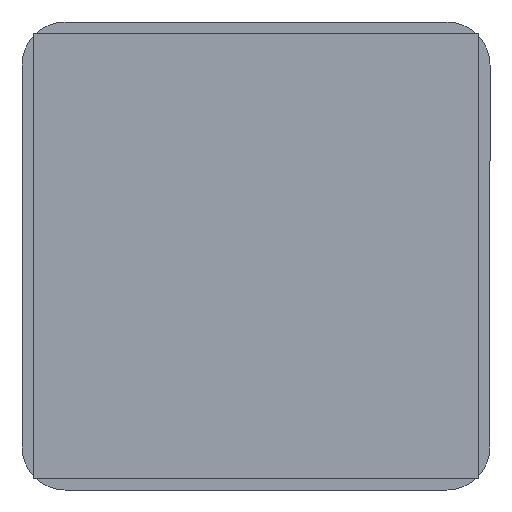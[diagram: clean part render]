
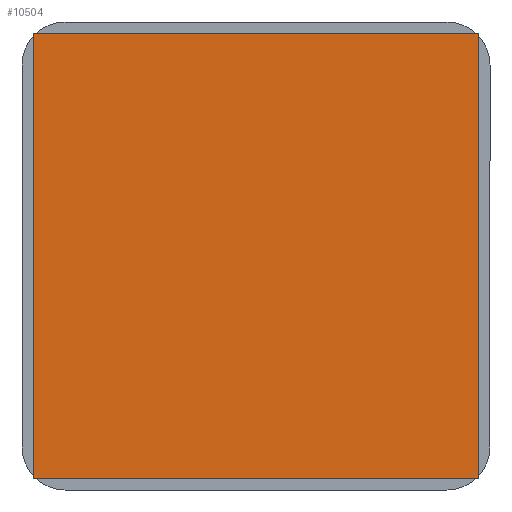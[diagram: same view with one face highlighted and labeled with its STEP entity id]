
A CAD part, front view. The second image highlights one B-rep face of the part: STEP entity #10504.
In plain terms, the highlighted planar face has unit normal (0, -1, 0).
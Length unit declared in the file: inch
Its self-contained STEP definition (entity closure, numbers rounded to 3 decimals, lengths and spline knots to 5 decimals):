
#136 = VECTOR ( 'NONE', #8358, 39.37008 ) ;
#461 = LINE ( 'NONE', #6376, #8105 ) ;
#781 = CARTESIAN_POINT ( 'NONE',  ( 0.61024, -0.005, -0.61024 ) ) ;
#1507 = CARTESIAN_POINT ( 'NONE',  ( -0.61024, -0.005, 0.61024 ) ) ;
#1870 = VERTEX_POINT ( 'NONE', #9272 ) ;
#2605 = CARTESIAN_POINT ( 'NONE',  ( -0.61024, -0.005, 0.61024 ) ) ;
#3732 = CARTESIAN_POINT ( 'NONE',  ( -0.61024, -0.005, -0.61024 ) ) ;
#3785 = ORIENTED_EDGE ( 'NONE', *, *, #7304, .F. ) ;
#3824 = CARTESIAN_POINT ( 'NONE',  ( 0.61024, -0.005, -0.61024 ) ) ;
#4040 = EDGE_CURVE ( 'NONE', #8818, #1870, #9914, .T. ) ;
#4565 = LINE ( 'NONE', #3732, #5872 ) ;
#4615 = DIRECTION ( 'NONE',  ( -1., 0., 0. ) ) ;
#5089 = DIRECTION ( 'NONE',  ( 0., 0., 1. ) ) ;
#5839 = PLANE ( 'NONE',  #9937 ) ;
#5872 = VECTOR ( 'NONE', #4615, 39.37008 ) ;
#6358 = EDGE_CURVE ( 'NONE', #1870, #9873, #7346, .T. ) ;
#6376 = CARTESIAN_POINT ( 'NONE',  ( -0.61024, -0.005, -0.61024 ) ) ;
#6384 = VERTEX_POINT ( 'NONE', #8258 ) ;
#7102 = EDGE_LOOP ( 'NONE', ( #3785, #10182, #8848, #10894 ) ) ;
#7280 = CARTESIAN_POINT ( 'NONE',  ( -0.61024, -0.005, 0.61024 ) ) ;
#7304 = EDGE_CURVE ( 'NONE', #6384, #8818, #461, .T. ) ;
#7346 = LINE ( 'NONE', #781, #136 ) ;
#7573 = FACE_OUTER_BOUND ( 'NONE', #7102, .T. ) ;
#7723 = DIRECTION ( 'NONE',  ( 0., 1., 0. ) ) ;
#8105 = VECTOR ( 'NONE', #9754, 39.37008 ) ;
#8258 = CARTESIAN_POINT ( 'NONE',  ( -0.61024, -0.005, -0.61024 ) ) ;
#8358 = DIRECTION ( 'NONE',  ( 0., 0., -1. ) ) ;
#8818 = VERTEX_POINT ( 'NONE', #1507 ) ;
#8848 = ORIENTED_EDGE ( 'NONE', *, *, #6358, .F. ) ;
#9272 = CARTESIAN_POINT ( 'NONE',  ( 0.61024, -0.005, 0.61024 ) ) ;
#9284 = VECTOR ( 'NONE', #10725, 39.37008 ) ;
#9754 = DIRECTION ( 'NONE',  ( 0., 0., 1. ) ) ;
#9873 = VERTEX_POINT ( 'NONE', #3824 ) ;
#9914 = LINE ( 'NONE', #7280, #9284 ) ;
#9937 = AXIS2_PLACEMENT_3D ( 'NONE', #2605, #7723, #5089 ) ;
#10182 = ORIENTED_EDGE ( 'NONE', *, *, #10561, .F. ) ;
#10504 = ADVANCED_FACE ( 'NONE', ( #7573 ), #5839, .F. ) ;
#10561 = EDGE_CURVE ( 'NONE', #9873, #6384, #4565, .T. ) ;
#10725 = DIRECTION ( 'NONE',  ( 1., 0., 0. ) ) ;
#10894 = ORIENTED_EDGE ( 'NONE', *, *, #4040, .F. ) ;
